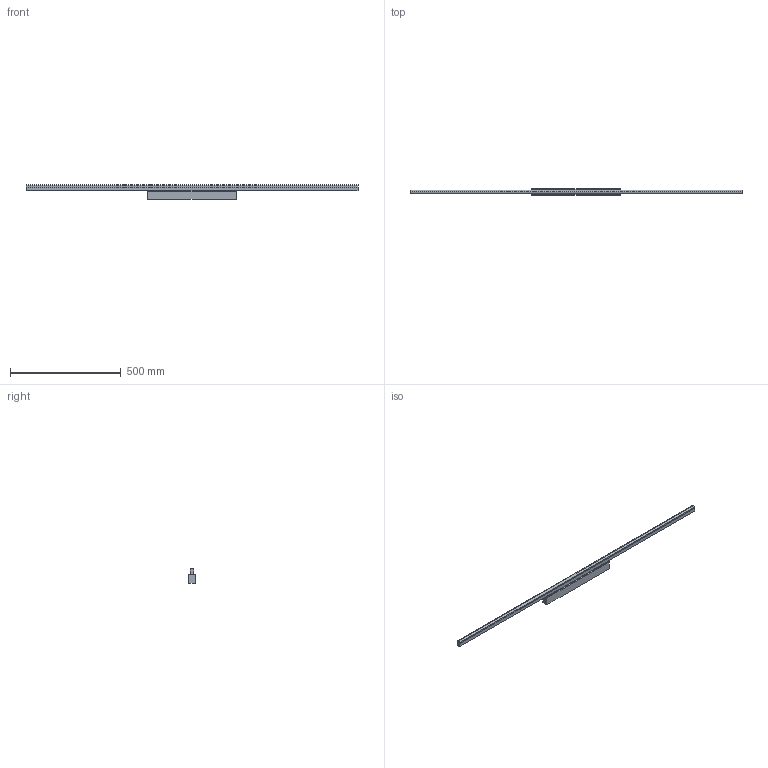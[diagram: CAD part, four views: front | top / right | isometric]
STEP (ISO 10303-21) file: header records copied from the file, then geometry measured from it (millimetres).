
FILE_DESCRIPTION (( 'STEP AP203' ), '1' );
FILE_NAME ('TAB LED 9598 3D MODEL.STEP', '2016-10-04T15:50:37', ( 'Utente' ), ( '' ), 'SwSTEP 2.0', 'SolidWorks 2016', '' );
FILE_SCHEMA (( 'CONFIG_CONTROL_DESIGN' ));
Length unit declared in the file: millimetre
Products named in the file (1): TAB LED 9598 3D MODEL
Bounding box: 1500 x 27.96 x 67.51 mm (x, y, z)
Volume: 1035168.9 mm3; surface area: 163570 mm2
Topology: 1 solids, 1 shells, 21 faces, 53 edges, 34 vertices
Faces by surface type: plane 17, cylinder 4
Entity records: 700 total; most frequent: CARTESIAN_POINT 109, ORIENTED_EDGE 106, DIRECTION 105, EDGE_CURVE 53, VECTOR 45, LINE 45, VERTEX_POINT 34, AXIS2_PLACEMENT_3D 30
